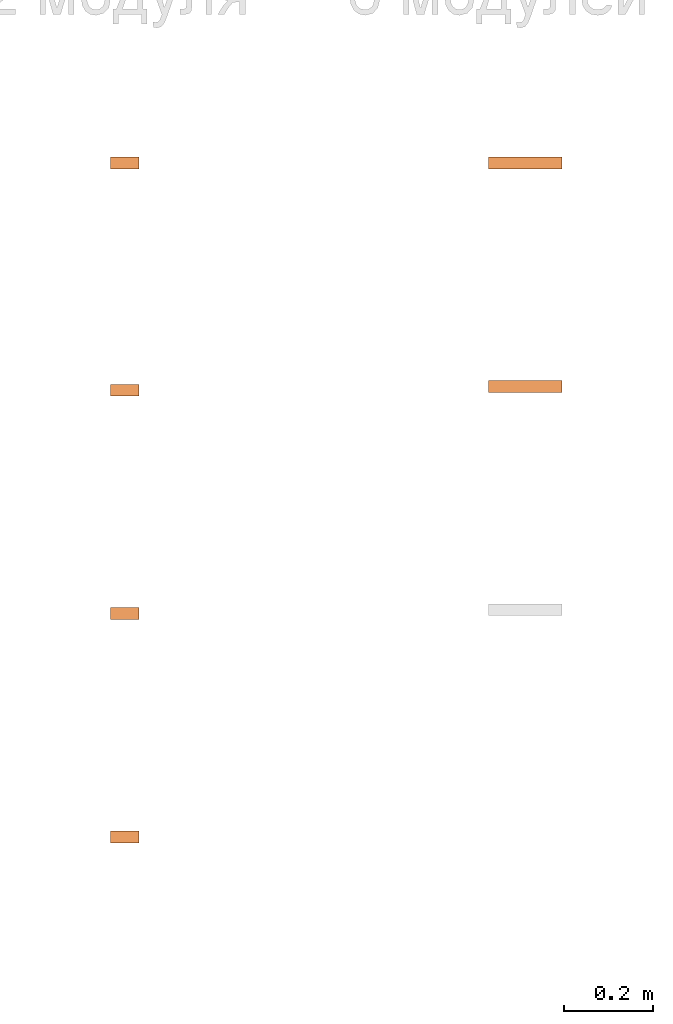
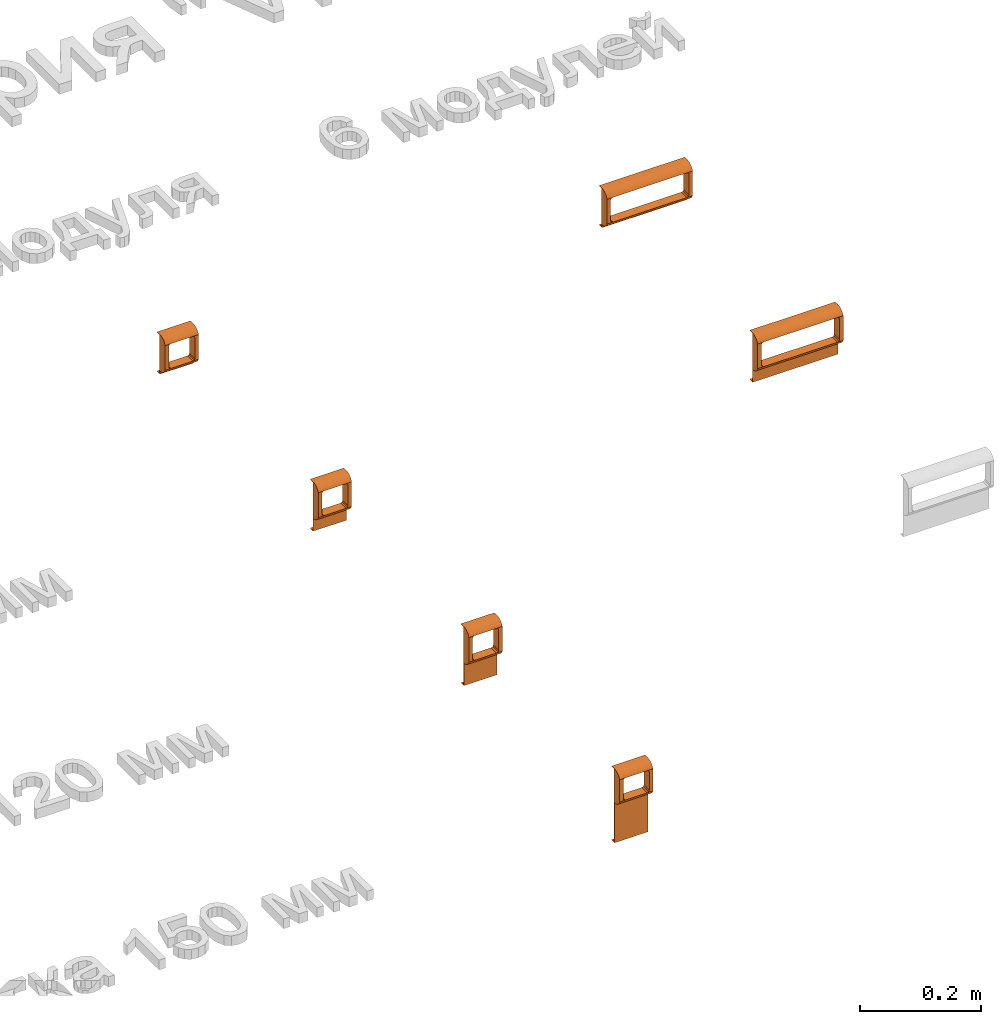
# One storey, part 68 of 71: 6 proxies.
"""IFC2X3 building model written with IfcOpenShell, lengths in millimetres."""

from ifc_helpers import new_model, entity, si_unit, converted_unit, derived_unit, direction, frame, origin, place, context, subcontext, project, spatial, faceted_brep, source, transform, mapped, material, type_object, type_shapes, element, save


model = new_model("IFC2X3")

# Units and contexts
model_context = context("Model", 3, precision=0.01, world=origin(), true_north=direction((6.12303176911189e-17, 1.0)))
body_context = subcontext(model_context, "Body", "Model", "MODEL_VIEW")
ifc_project = project(units=[si_unit("LENGTHUNIT", "METRE", prefix="MILLI"), si_unit("AREAUNIT", "SQUARE_METRE"), si_unit("VOLUMEUNIT", "CUBIC_METRE"), converted_unit("PLANEANGLEUNIT", "DEGREE", entity("IfcRatioMeasure", 0.0174532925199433), si_unit("PLANEANGLEUNIT", "RADIAN"), dimensions=[0, 0, 0, 0, 0, 0, 0]), si_unit("MASSUNIT", "GRAM", prefix="KILO"), derived_unit("MASSDENSITYUNIT", [(si_unit("MASSUNIT", "GRAM", prefix="KILO"), 1), (si_unit("LENGTHUNIT", "METRE"), -3)]), si_unit("TIMEUNIT", "SECOND"), si_unit("FREQUENCYUNIT", "HERTZ"), si_unit("THERMODYNAMICTEMPERATUREUNIT", "DEGREE_CELSIUS"), derived_unit("THERMALTRANSMITTANCEUNIT", [(si_unit("MASSUNIT", "GRAM", prefix="KILO"), 1), (si_unit("THERMODYNAMICTEMPERATUREUNIT", "KELVIN"), -1), (si_unit("TIMEUNIT", "SECOND"), -3)]), derived_unit("VOLUMETRICFLOWRATEUNIT", [(si_unit("LENGTHUNIT", "METRE"), 3), (si_unit("TIMEUNIT", "SECOND"), -1)]), si_unit("ELECTRICCURRENTUNIT", "AMPERE"), si_unit("ELECTRICVOLTAGEUNIT", "VOLT"), si_unit("POWERUNIT", "WATT"), si_unit("FORCEUNIT", "NEWTON", prefix="KILO"), si_unit("ILLUMINANCEUNIT", "LUX"), si_unit("LUMINOUSFLUXUNIT", "LUMEN"), si_unit("LUMINOUSINTENSITYUNIT", "CANDELA"), derived_unit("USERDEFINED", [(si_unit("MASSUNIT", "GRAM", prefix="KILO"), -1), (si_unit("LENGTHUNIT", "METRE"), -2), (si_unit("TIMEUNIT", "SECOND"), 3), (si_unit("LUMINOUSFLUXUNIT", "LUMEN"), 1)]), derived_unit("LINEARVELOCITYUNIT", [(si_unit("LENGTHUNIT", "METRE"), 1), (si_unit("TIMEUNIT", "SECOND"), -1)]), si_unit("PRESSUREUNIT", "PASCAL"), derived_unit("USERDEFINED", [(si_unit("LENGTHUNIT", "METRE"), -2), (si_unit("MASSUNIT", "GRAM", prefix="KILO"), 1), (si_unit("TIMEUNIT", "SECOND"), -2)])], contexts=[model_context])

# Site, building, storey
site_placement = place(None, origin())
site = spatial("IfcSite", under=ifc_project, at=site_placement, Name="Default", CompositionType="ELEMENT")
building_placement = place(site_placement, origin())
building = spatial("IfcBuilding", under=site, at=building_placement, Name="Наименование здания", CompositionType="ELEMENT")
storey_placement = place(building_placement, origin())
storey = spatial("IfcBuildingStorey", under=building, at=storey_placement, Name="Этаж 01", CompositionType="ELEMENT", Elevation=0.0)

# Proxies
ifc_material = material(Name="DKC_Пластик_Белый")
building_element_proxy_type_1 = type_object("IfcBuildingElementProxyType", Name="Серия \"Viva\"", PredefinedType="NOTDEFINED", material=ifc_material)
shared_shape_1 = source(origin(), body_context, "Body", "Brep", [
    faceted_brep([(-23.8192492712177, -18.0, 36.8192492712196), (-20.9686648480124, -18.0, 38.0), (-32.0, -18.0, 38.0), (-32.0, -18.0, -12.0), (-20.9686648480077, -18.0, -12.0), (-23.8192492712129, -18.0, -10.8192492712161), (-25.0, -18.0, -7.96866484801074), (-25.0, -18.0, 33.9686648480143), (32.0, -18.0, 38.0), (20.96866484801, -18.0, 38.0), (23.8192492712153, -18.0, 36.8192492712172), (25.0, -18.0, 33.9686648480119), (25.0, -18.0, -7.96866484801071), (23.8192492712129, -18.0, -10.819249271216), (20.9686648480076, -18.0, -12.0), (32.0, -18.0, -12.0), (32.0, -1.0, -50.0), (32.0, 8.40000000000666, -50.0), (32.0, 8.40000000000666, -49.0), (32.0, 0.0, -49.0), (32.0, 0.0, 49.0), (32.0, 8.40000000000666, 49.0), (32.0, 8.40000000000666, 50.0), (32.0, -1.0, 50.0), (32.0, -5.39126188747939, 49.4574348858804), (32.0, -9.51840787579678, 47.8623725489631), (32.0, -13.1332075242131, 45.310749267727), (32.0, -16.018245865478, 41.9560344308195), (32.0, -16.0182458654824, -15.9560344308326), (32.0, -13.133207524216, -19.3107492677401), (32.0, -9.51840787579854, -21.8623725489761), (32.0, -5.39126188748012, -23.4574348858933), (32.0, -1.0, -24.0), (-32.0, -1.0, 50.0), (-32.0, 8.40000000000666, 50.0), (-32.0, 8.40000000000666, 49.0), (-32.0, 0.0, 49.0), (-32.0, 0.0, -49.0), (-32.0, 8.40000000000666, -49.0), (-32.0, 8.40000000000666, -50.0), (-32.0, -1.0, -50.0), (-32.0, -1.0, -24.0), (-32.0, -5.39126188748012, -23.4574348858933), (-32.0, -9.51840787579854, -21.8623725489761), (-32.0, -13.133207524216, -19.3107492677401), (-32.0, -16.0182458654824, -15.9560344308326), (-32.0, -16.018245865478, 41.9560344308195), (-32.0, -13.1332075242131, 45.310749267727), (-32.0, -9.51840787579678, 47.8623725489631), (-32.0, -5.39126188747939, 49.4574348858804), (25.0, 0.0, -7.96866484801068), (23.8192492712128, 0.0, -10.819249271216), (20.9686648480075, 0.0, -12.0), (-20.9686648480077, 0.0, -12.0), (-23.819249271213, 0.0, -10.819249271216), (-25.0, 0.0, -7.96866484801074), (-25.0, 0.0, 33.9686648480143), (-23.8192492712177, 0.0, 36.8192492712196), (-20.9686648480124, 0.0, 38.0), (25.0, 0.0, 33.968664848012), (23.8192492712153, 0.0, 36.8192492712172), (20.96866484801, 0.0, 38.0)], [[[0, 1, 2, 3, 4, 5, 6, 7]], [[8, 9, 10, 11, 12, 13, 14, 15]], [[16, 17, 18, 19, 20, 21, 22, 23, 24, 25, 26, 27, 8, 15, 28, 29, 30, 31, 32]], [[33, 34, 35, 36, 37, 38, 39, 40, 41, 42, 43, 44, 45, 3, 2, 46, 47, 48, 49]], [[22, 21, 35, 34]], [[18, 17, 39, 38]], [[23, 22, 34, 33]], [[16, 32, 41, 40]], [[17, 16, 40, 39]], [[19, 18, 38, 37]], [[19, 50, 20]], [[50, 19, 51]], [[52, 51, 19]], [[19, 53, 52]], [[53, 19, 37]], [[54, 53, 37]], [[37, 55, 54]], [[55, 37, 36]], [[36, 56, 55]], [[56, 36, 57]], [[58, 57, 36]], [[58, 36, 20]], [[59, 20, 50]], [[20, 59, 60]], [[60, 61, 20]], [[20, 61, 58]], [[21, 20, 36, 35]], [[24, 49, 48, 25]], [[25, 48, 47, 26]], [[33, 49, 24, 23]], [[46, 2, 1, 9, 8, 27]], [[26, 47, 46, 27]], [[4, 3, 45, 28, 15, 14]], [[28, 45, 44, 29]], [[30, 43, 42, 31]], [[31, 42, 41, 32]], [[29, 44, 43, 30]], [[58, 61, 9, 1]], [[0, 57, 58, 1]], [[7, 56, 57, 0]], [[56, 7, 6, 55]], [[5, 54, 55, 6]], [[4, 53, 54, 5]], [[53, 4, 14, 52]], [[13, 51, 52, 14]], [[12, 50, 51, 13]], [[50, 12, 11, 59]], [[10, 60, 59, 11]], [[9, 61, 60, 10]]]),
])
type_shapes(building_element_proxy_type_1, [shared_shape_1])
proxy_1_placement = place(storey_placement, frame((3712.40142967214, -12431.8358834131, 0.0)))
element("IfcBuildingElementProxy", 1, at=proxy_1_placement, inside=storey, type_object=building_element_proxy_type_1, material=ifc_material, Name="КНС_РамкаСуппорт_ILC_DKC:Серия \"Viva\"", ObjectType="Серия \"Viva\"", context=body_context, shape_type="MappedRepresentation", body=[
    mapped(shared_shape_1, transform((0.0, 0.0, 0.0), scale=1.0)),
])
building_element_proxy_type_2 = type_object("IfcBuildingElementProxyType", Name="Серия \"Viva\"", PredefinedType="NOTDEFINED", material=ifc_material)
shared_shape_2 = source(origin(), body_context, "Body", "Brep", [
    faceted_brep([(-23.8192492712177, -18.0, 46.8192492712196), (-20.9686648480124, -18.0, 48.0), (-32.0, -18.0, 48.0), (-32.0, -18.0, -2.0), (-20.9686648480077, -18.0, -2.0), (-23.8192492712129, -18.0, -0.81924927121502), (-25.0, -18.0, 2.03133515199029), (-25.0, -18.0, 43.9686648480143), (32.0, -18.0, 48.0), (20.96866484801, -18.0, 48.0), (23.8192492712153, -18.0, 46.8192492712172), (25.0, -18.0, 43.9686648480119), (25.0, -18.0, 2.03133515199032), (23.8192492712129, -18.0, -0.819249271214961), (20.9686648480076, -18.0, -2.0), (32.0, -18.0, -2.0), (32.0, -1.0, -60.0), (32.0, 8.40000000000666, -60.0), (32.0, 8.40000000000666, -59.0), (32.0, 0.0, -59.0), (32.0, 0.0, 59.0), (32.0, 8.40000000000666, 59.0), (32.0, 8.40000000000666, 60.0), (32.0, -1.0, 60.0), (32.0, -5.39126188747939, 59.4574348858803), (32.0, -9.51840787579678, 57.862372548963), (32.0, -13.1332075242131, 55.310749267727), (32.0, -16.018245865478, 51.9560344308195), (32.0, -16.0182458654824, -5.95603443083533), (32.0, -13.133207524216, -9.31074926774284), (32.0, -9.51840787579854, -11.8623725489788), (32.0, -5.39126188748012, -13.457434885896), (32.0, -1.0, -14.0), (-32.0, -1.0, 60.0), (-32.0, 8.40000000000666, 60.0), (-32.0, 8.40000000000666, 59.0), (-32.0, 0.0, 59.0), (-32.0, 0.0, -59.0), (-32.0, 8.40000000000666, -59.0), (-32.0, 8.40000000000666, -60.0), (-32.0, -1.0, -60.0), (-32.0, -1.0, -14.0), (-32.0, -5.39126188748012, -13.457434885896), (-32.0, -9.51840787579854, -11.8623725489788), (-32.0, -13.133207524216, -9.31074926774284), (-32.0, -16.0182458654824, -5.95603443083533), (-32.0, -16.018245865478, 51.9560344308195), (-32.0, -13.1332075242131, 55.310749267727), (-32.0, -9.51840787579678, 57.862372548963), (-32.0, -5.39126188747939, 59.4574348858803), (25.0, 0.0, 2.03133515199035), (23.8192492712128, 0.0, -0.819249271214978), (20.9686648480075, 0.0, -2.0), (-20.9686648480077, 0.0, -2.0), (-23.819249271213, 0.0, -0.819249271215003), (-25.0, 0.0, 2.03133515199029), (-25.0, 0.0, 43.9686648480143), (-23.8192492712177, 0.0, 46.8192492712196), (-20.9686648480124, 0.0, 48.0), (25.0, 0.0, 43.9686648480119), (23.8192492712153, 0.0, 46.8192492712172), (20.96866484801, 0.0, 48.0)], [[[0, 1, 2, 3, 4, 5, 6, 7]], [[8, 9, 10, 11, 12, 13, 14, 15]], [[16, 17, 18, 19, 20, 21, 22, 23, 24, 25, 26, 27, 8, 15, 28, 29, 30, 31, 32]], [[33, 34, 35, 36, 37, 38, 39, 40, 41, 42, 43, 44, 45, 3, 2, 46, 47, 48, 49]], [[22, 21, 35, 34]], [[18, 17, 39, 38]], [[23, 22, 34, 33]], [[16, 32, 41, 40]], [[17, 16, 40, 39]], [[19, 18, 38, 37]], [[19, 50, 20]], [[50, 19, 51]], [[52, 51, 19]], [[19, 53, 52]], [[53, 19, 37]], [[54, 53, 37]], [[37, 55, 54]], [[55, 37, 36]], [[36, 56, 55]], [[56, 36, 57]], [[58, 57, 36]], [[58, 36, 20]], [[59, 20, 50]], [[20, 59, 60]], [[60, 61, 20]], [[20, 61, 58]], [[21, 20, 36, 35]], [[24, 49, 48, 25]], [[25, 48, 47, 26]], [[33, 49, 24, 23]], [[46, 2, 1, 9, 8, 27]], [[26, 47, 46, 27]], [[4, 3, 45, 28, 15, 14]], [[28, 45, 44, 29]], [[30, 43, 42, 31]], [[31, 42, 41, 32]], [[29, 44, 43, 30]], [[58, 61, 9, 1]], [[0, 57, 58, 1]], [[7, 56, 57, 0]], [[56, 7, 6, 55]], [[5, 54, 55, 6]], [[4, 53, 54, 5]], [[53, 4, 14, 52]], [[13, 51, 52, 14]], [[12, 50, 51, 13]], [[59, 50, 12, 11]], [[10, 60, 59, 11]], [[9, 61, 60, 10]]]),
])
type_shapes(building_element_proxy_type_2, [shared_shape_2])
proxy_2_placement = place(storey_placement, frame((3712.40142967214, -12931.8358834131, 0.0)))
element("IfcBuildingElementProxy", 2, at=proxy_2_placement, inside=storey, type_object=building_element_proxy_type_2, material=ifc_material, Name="КНС_РамкаСуппорт_ILC_DKC:Серия \"Viva\"", ObjectType="Серия \"Viva\"", context=body_context, shape_type="MappedRepresentation", body=[
    mapped(shared_shape_2, transform((0.0, 0.0, 0.0), scale=1.0)),
])
building_element_proxy_type_3 = type_object("IfcBuildingElementProxyType", Name="Серия \"Viva\"", PredefinedType="NOTDEFINED", material=ifc_material)
shared_shape_3 = source(origin(), body_context, "Body", "Brep", [
    faceted_brep([(-23.8192492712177, -18.0, 61.8192492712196), (-20.9686648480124, -18.0, 63.0), (-32.0, -18.0, 63.0), (-32.0, -18.0, 18.0), (-20.9686648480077, -18.0, 18.0), (-23.8192492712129, -18.0, 19.180750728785), (-25.0, -18.0, 22.0313351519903), (-25.0, -18.0, 58.9686648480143), (32.0, -18.0, 63.0), (20.96866484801, -18.0, 63.0), (23.8192492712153, -18.0, 61.8192492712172), (25.0, -18.0, 58.9686648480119), (25.0, -18.0, 22.0313351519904), (23.8192492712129, -18.0, 19.1807507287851), (20.9686648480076, -18.0, 18.0), (32.0, -18.0, 18.0), (32.0, -1.0, -75.0), (32.0, 8.40000000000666, -75.0), (32.0, 8.40000000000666, -74.0), (32.0, 0.0, -74.0), (32.0, 0.0, 74.0), (32.0, 8.40000000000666, 74.0), (32.0, 8.40000000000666, 75.0), (32.0, -1.0, 75.0), (32.0, -5.39126188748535, 74.4574348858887), (32.0, -9.51840787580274, 72.8623725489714), (32.0, -13.133207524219, 70.3107492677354), (32.0, -16.018245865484, 66.9560344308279), (32.0, -16.0182458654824, 14.0439655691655), (32.0, -13.133207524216, 10.689250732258), (32.0, -9.51840787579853, 8.13762745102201), (32.0, -5.39126188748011, 6.54256511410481), (32.0, -1.0, 6.0), (-32.0, -1.0, 75.0), (-32.0, 8.40000000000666, 75.0), (-32.0, 8.40000000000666, 74.0), (-32.0, 0.0, 74.0), (-32.0, 0.0, -74.0), (-32.0, 8.40000000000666, -74.0), (-32.0, 8.40000000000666, -75.0), (-32.0, -1.0, -75.0), (-32.0, -1.0, 6.0), (-32.0, -5.39126188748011, 6.54256511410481), (-32.0, -9.51840787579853, 8.13762745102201), (-32.0, -13.133207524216, 10.689250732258), (-32.0, -16.0182458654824, 14.0439655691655), (-32.0, -16.018245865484, 66.9560344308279), (-32.0, -13.133207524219, 70.3107492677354), (-32.0, -9.51840787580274, 72.8623725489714), (-32.0, -5.39126188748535, 74.4574348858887), (25.0, 0.0, 22.0313351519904), (23.8192492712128, 0.0, 19.1807507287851), (20.9686648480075, 0.0, 18.0), (-20.9686648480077, 0.0, 18.0), (-23.819249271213, 0.0, 19.180750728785), (-25.0, 0.0, 22.0313351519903), (-25.0, 0.0, 58.9686648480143), (-23.8192492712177, 0.0, 61.8192492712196), (-20.9686648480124, 0.0, 63.0), (25.0, 0.0, 58.968664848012), (23.8192492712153, 0.0, 61.8192492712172), (20.96866484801, 0.0, 63.0)], [[[0, 1, 2, 3, 4, 5, 6, 7]], [[8, 9, 10, 11, 12, 13, 14, 15]], [[16, 17, 18, 19, 20, 21, 22, 23, 24, 25, 26, 27, 8, 15, 28, 29, 30, 31, 32]], [[33, 34, 35, 36, 37, 38, 39, 40, 41, 42, 43, 44, 45, 3, 2, 46, 47, 48, 49]], [[22, 21, 35, 34]], [[18, 17, 39, 38]], [[23, 22, 34, 33]], [[16, 32, 41, 40]], [[17, 16, 40, 39]], [[19, 18, 38, 37]], [[19, 50, 20]], [[50, 19, 51]], [[52, 51, 19]], [[19, 37, 52]], [[53, 52, 37]], [[54, 53, 37]], [[37, 55, 54]], [[55, 37, 36]], [[36, 56, 55]], [[56, 36, 57]], [[58, 57, 36]], [[58, 36, 20]], [[59, 20, 50]], [[20, 59, 60]], [[60, 61, 20]], [[20, 61, 58]], [[21, 20, 36, 35]], [[24, 49, 48, 25]], [[25, 48, 47, 26]], [[33, 49, 24, 23]], [[46, 2, 1, 9, 8, 27]], [[26, 47, 46, 27]], [[4, 3, 45, 28, 15, 14]], [[28, 45, 44, 29]], [[30, 43, 42, 31]], [[31, 42, 41, 32]], [[29, 44, 43, 30]], [[58, 61, 9, 1]], [[0, 57, 58, 1]], [[7, 56, 57, 0]], [[56, 7, 6, 55]], [[5, 54, 55, 6]], [[4, 53, 54, 5]], [[53, 4, 14, 52]], [[13, 51, 52, 14]], [[12, 50, 51, 13]], [[50, 12, 11, 59]], [[10, 60, 59, 11]], [[9, 61, 60, 10]]]),
])
type_shapes(building_element_proxy_type_3, [shared_shape_3])
proxy_3_placement = place(storey_placement, frame((3712.40142967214, -13431.8358834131, 0.0)))
element("IfcBuildingElementProxy", 3, at=proxy_3_placement, inside=storey, type_object=building_element_proxy_type_3, material=ifc_material, Name="КНС_РамкаСуппорт_ILC_DKC:Серия \"Viva\"", ObjectType="Серия \"Viva\"", context=body_context, shape_type="MappedRepresentation", body=[
    mapped(shared_shape_3, transform((0.0, 0.0, 0.0), scale=1.0)),
])
building_element_proxy_type_4 = type_object("IfcBuildingElementProxyType", Name="Серия \"Viva\"", PredefinedType="NOTDEFINED", material=ifc_material)
shared_shape_4 = source(origin(), body_context, "Body", "Brep", [
    faceted_brep([(-73.8192492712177, -18.0, 26.8192492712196), (-70.9686648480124, -18.0, 28.0), (-82.0, -18.0, 28.0), (-82.0, -18.0, -22.0), (-70.9686648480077, -18.0, -22.0), (-73.819249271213, -18.0, -20.819249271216), (-75.0, -18.0, -17.9686648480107), (-75.0, -18.0, 23.9686648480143), (82.0, -18.0, 28.0), (70.96866484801, -18.0, 28.0), (73.8192492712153, -18.0, 26.8192492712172), (75.0, -18.0, 23.9686648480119), (75.0, -18.0, -17.9686648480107), (73.8192492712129, -18.0, -20.819249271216), (70.9686648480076, -18.0, -22.0), (82.0, -18.0, -22.0), (82.0, -1.0, -40.0), (82.0, 8.40000000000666, -40.0), (82.0, 8.40000000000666, -39.0), (82.0, 0.0, -39.0), (82.0, 0.0, 39.0), (82.0, 8.40000000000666, 39.0), (82.0, 8.40000000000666, 40.0), (82.0, -1.0, 40.0), (82.0, -5.39126188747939, 39.4574348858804), (82.0, -9.51840787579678, 37.8623725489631), (82.0, -13.1332075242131, 35.3107492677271), (82.0, -16.018245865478, 31.9560344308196), (82.0, -16.0182458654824, -25.9560344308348), (82.0, -13.133207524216, -29.3107492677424), (82.0, -9.51840787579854, -31.8623725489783), (82.0, -5.39126188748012, -33.4574348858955), (82.0, -1.0, -34.0), (-82.0, -1.0, 40.0), (-82.0, 8.40000000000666, 40.0), (-82.0, 8.40000000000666, 39.0), (-82.0, 0.0, 39.0), (-82.0, 0.0, -39.0), (-82.0, 8.40000000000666, -39.0), (-82.0, 8.40000000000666, -40.0), (-82.0, -1.0, -40.0), (-82.0, -1.0, -34.0), (-82.0, -5.39126188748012, -33.4574348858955), (-82.0, -9.51840787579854, -31.8623725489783), (-82.0, -13.133207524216, -29.3107492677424), (-82.0, -16.0182458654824, -25.9560344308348), (-82.0, -16.018245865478, 31.9560344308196), (-82.0, -13.1332075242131, 35.3107492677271), (-82.0, -9.51840787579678, 37.8623725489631), (-82.0, -5.39126188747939, 39.4574348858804), (-7.84403318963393, -1.0, 40.0), (7.84408283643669, -1.0, -34.0), (75.0, 0.0, -17.9686648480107), (73.8192492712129, 0.0, -20.819249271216), (70.9686648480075, 0.0, -22.0), (-70.9686648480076, 0.0, -22.0), (-73.819249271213, 0.0, -20.819249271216), (-75.0, 0.0, -17.9686648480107), (-75.0, 0.0, 23.9686648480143), (-73.8192492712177, 0.0, 26.8192492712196), (-70.9686648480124, 0.0, 28.0), (75.0, 0.0, 23.9686648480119), (73.8192492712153, 0.0, 26.8192492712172), (70.96866484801, 0.0, 28.0), (-1.05664262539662e-07, -7.50391799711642, 38.7869038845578), (10.4878486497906, -16.6040193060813, 31.0146194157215), (0.0, -18.0, 28.0), (-8.03406533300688e-08, -11.4043260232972, 36.697795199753), (6.74916057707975e-08, -14.6789576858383, 33.7221699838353), (-10.7041046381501, -4.32349317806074, 39.6912442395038), (-10.4878486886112, -16.604019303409, -25.0146194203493), (0.0, -18.0, -22.0), (-2.78578905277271e-08, -14.6789576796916, -27.7221699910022), (2.4966060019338e-08, -11.4043260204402, -30.6977952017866), (10.7041051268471, -4.32349317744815, -33.6912442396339), (-2.08968483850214e-08, -7.50391799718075, -32.7869038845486)], [[[0, 1, 2, 3, 4, 5, 6, 7]], [[8, 9, 10, 11, 12, 13, 14, 15]], [[16, 17, 18, 19, 20, 21, 22, 23, 24, 25, 26, 27, 8, 15, 28, 29, 30, 31, 32]], [[33, 34, 35, 36, 37, 38, 39, 40, 41, 42, 43, 44, 45, 3, 2, 46, 47, 48, 49]], [[22, 21, 35, 34]], [[18, 17, 39, 38]], [[22, 34, 33, 50, 23]], [[16, 32, 51, 41, 40]], [[17, 16, 40, 39]], [[19, 18, 38, 37]], [[19, 52, 20]], [[52, 19, 53]], [[54, 53, 19]], [[19, 55, 54]], [[55, 19, 37]], [[56, 55, 37]], [[37, 57, 56]], [[57, 37, 36]], [[36, 58, 57]], [[58, 36, 59]], [[60, 59, 36]], [[60, 36, 20]], [[61, 20, 52]], [[20, 61, 62]], [[62, 63, 20]], [[20, 63, 60]], [[21, 20, 36, 35]], [[64, 49, 48]], [[9, 65, 1, 66]], [[67, 48, 47]], [[67, 47, 68]], [[69, 49, 64]], [[23, 69, 24]], [[68, 26, 67]], [[25, 24, 64]], [[64, 67, 25]], [[26, 25, 67]], [[46, 2, 1]], [[9, 8, 27]], [[33, 69, 23, 50]], [[64, 48, 67]], [[27, 65, 9]], [[26, 68, 27]], [[68, 65, 27]], [[65, 46, 1]], [[24, 69, 64]], [[68, 47, 46]], [[46, 65, 68]], [[33, 49, 69]], [[4, 3, 45]], [[28, 15, 14]], [[4, 70, 14, 71]], [[72, 45, 44]], [[72, 44, 73]], [[70, 45, 72]], [[74, 42, 41]], [[45, 70, 4]], [[29, 28, 72]], [[75, 43, 42]], [[32, 74, 41, 51]], [[42, 74, 75]], [[74, 32, 31]], [[29, 73, 30]], [[75, 73, 43]], [[75, 31, 30]], [[74, 31, 75]], [[73, 29, 72]], [[70, 28, 14]], [[73, 44, 43]], [[28, 70, 72]], [[73, 75, 30]], [[60, 63, 9, 66, 1]], [[0, 59, 60, 1]], [[7, 58, 59, 0]], [[58, 7, 6, 57]], [[5, 56, 57, 6]], [[4, 55, 56, 5]], [[55, 4, 71, 14, 54]], [[13, 53, 54, 14]], [[12, 52, 53, 13]], [[61, 52, 12, 11]], [[10, 62, 61, 11]], [[9, 63, 62, 10]]]),
])
type_shapes(building_element_proxy_type_4, [shared_shape_4])
proxy_4_placement = place(storey_placement, frame((4609.30353125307, -11923.4358834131, 0.0)))
element("IfcBuildingElementProxy", 4, at=proxy_4_placement, inside=storey, type_object=building_element_proxy_type_4, material=ifc_material, Name="КНС_РамкаСуппорт_ILC_DKC:Серия \"Viva\"", ObjectType="Серия \"Viva\"", context=body_context, shape_type="MappedRepresentation", body=[
    mapped(shared_shape_4, transform((0.0, 0.0, 0.0), scale=1.0)),
])
building_element_proxy_type_5 = type_object("IfcBuildingElementProxyType", Name="Серия \"Viva\"", PredefinedType="NOTDEFINED", material=ifc_material)
shared_shape_5 = source(origin(), body_context, "Body", "Brep", [
    faceted_brep([(-73.8192492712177, -18.0, 36.8192492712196), (-70.9686648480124, -18.0, 38.0), (-82.0, -18.0, 38.0), (-82.0, -18.0, -12.0), (-70.9686648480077, -18.0, -12.0), (-73.819249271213, -18.0, -10.819249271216), (-75.0, -18.0, -7.96866484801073), (-75.0, -18.0, 33.9686648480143), (82.0, -18.0, 38.0), (70.96866484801, -18.0, 38.0), (73.8192492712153, -18.0, 36.8192492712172), (75.0, -18.0, 33.9686648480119), (75.0, -18.0, -7.96866484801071), (73.8192492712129, -18.0, -10.819249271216), (70.9686648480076, -18.0, -12.0), (82.0, -18.0, -12.0), (82.0, -1.0, -50.0), (82.0, 8.40000000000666, -50.0), (82.0, 8.40000000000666, -49.0), (82.0, 0.0, -49.0), (82.0, 0.0, 49.0), (82.0, 8.40000000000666, 49.0), (82.0, 8.40000000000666, 50.0), (82.0, -1.0, 50.0), (82.0, -5.39126188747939, 49.4574348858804), (82.0, -9.51840787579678, 47.8623725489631), (82.0, -13.1332075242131, 45.310749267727), (82.0, -16.018245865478, 41.9560344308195), (82.0, -16.0182458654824, -15.9560344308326), (82.0, -13.133207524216, -19.3107492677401), (82.0, -9.51840787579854, -21.8623725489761), (82.0, -5.39126188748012, -23.4574348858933), (82.0, -1.0, -24.0), (-82.0, -1.0, 50.0), (-82.0, 8.40000000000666, 50.0), (-82.0, 8.40000000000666, 49.0), (-82.0, 0.0, 49.0), (-82.0, 0.0, -49.0), (-82.0, 8.40000000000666, -49.0), (-82.0, 8.40000000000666, -50.0), (-82.0, -1.0, -50.0), (-82.0, -1.0, -24.0), (-82.0, -5.39126188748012, -23.4574348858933), (-82.0, -9.51840787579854, -21.8623725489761), (-82.0, -13.133207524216, -19.3107492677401), (-82.0, -16.0182458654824, -15.9560344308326), (-82.0, -16.018245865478, 41.9560344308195), (-82.0, -13.1332075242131, 45.310749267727), (-82.0, -9.51840787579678, 47.8623725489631), (-82.0, -5.39126188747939, 49.4574348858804), (-7.84403318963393, -1.0, 50.0), (7.84408283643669, -1.0, -24.0), (75.0, 0.0, -7.96866484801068), (73.8192492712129, 0.0, -10.819249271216), (70.9686648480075, 0.0, -12.0), (-70.9686648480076, 0.0, -12.0), (-73.819249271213, 0.0, -10.819249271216), (-75.0, 0.0, -7.96866484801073), (-75.0, 0.0, 33.9686648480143), (-73.8192492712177, 0.0, 36.8192492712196), (-70.9686648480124, 0.0, 38.0), (75.0, 0.0, 33.968664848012), (73.8192492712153, 0.0, 36.8192492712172), (70.96866484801, 0.0, 38.0), (-1.05664262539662e-07, -7.50391799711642, 48.7869038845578), (10.4878486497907, -16.6040193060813, 41.0146194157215), (0.0, -18.0, 38.0), (-8.03406533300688e-08, -11.4043260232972, 46.6977951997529), (6.74915888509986e-08, -14.6789576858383, 43.7221699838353), (-10.7041046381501, -4.32349317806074, 49.6912442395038), (-10.487848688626, -16.6040193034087, -15.0146194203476), (0.0, -18.0, -12.0), (-2.7857907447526e-08, -14.6789576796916, -17.7221699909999), (2.49660769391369e-08, -11.4043260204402, -20.6977952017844), (10.7041051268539, -4.32349317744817, -23.6912442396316), (-2.08968483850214e-08, -7.50391799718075, -22.7869038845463)], [[[0, 1, 2, 3, 4, 5, 6, 7]], [[8, 9, 10, 11, 12, 13, 14, 15]], [[16, 17, 18, 19, 20, 21, 22, 23, 24, 25, 26, 27, 8, 15, 28, 29, 30, 31, 32]], [[33, 34, 35, 36, 37, 38, 39, 40, 41, 42, 43, 44, 45, 3, 2, 46, 47, 48, 49]], [[22, 21, 35, 34]], [[18, 17, 39, 38]], [[22, 34, 33, 50, 23]], [[16, 32, 51, 41, 40]], [[17, 16, 40, 39]], [[19, 18, 38, 37]], [[19, 52, 20]], [[52, 19, 53]], [[54, 53, 19]], [[19, 37, 54]], [[55, 54, 37]], [[56, 55, 37]], [[37, 57, 56]], [[57, 37, 36]], [[36, 58, 57]], [[58, 36, 59]], [[60, 59, 36]], [[60, 36, 20]], [[61, 20, 52]], [[20, 61, 62]], [[62, 63, 20]], [[20, 63, 60]], [[21, 20, 36, 35]], [[64, 49, 48]], [[9, 65, 1, 66]], [[67, 48, 47]], [[67, 47, 68]], [[69, 49, 64]], [[23, 69, 24]], [[68, 26, 67]], [[25, 24, 64]], [[64, 67, 25]], [[26, 25, 67]], [[46, 2, 1]], [[9, 8, 27]], [[33, 69, 23, 50]], [[64, 48, 67]], [[27, 65, 9]], [[26, 68, 27]], [[68, 65, 27]], [[65, 46, 1]], [[24, 69, 64]], [[68, 47, 46]], [[46, 65, 68]], [[33, 49, 69]], [[4, 3, 45]], [[28, 15, 14]], [[4, 70, 14, 71]], [[72, 45, 44]], [[72, 44, 73]], [[70, 45, 72]], [[74, 42, 41]], [[45, 70, 4]], [[29, 28, 72]], [[75, 43, 42]], [[32, 74, 41, 51]], [[42, 74, 75]], [[74, 32, 31]], [[29, 73, 30]], [[75, 73, 43]], [[75, 31, 30]], [[74, 31, 75]], [[73, 29, 72]], [[70, 28, 14]], [[73, 44, 43]], [[28, 70, 72]], [[73, 75, 30]], [[60, 63, 9, 66, 1]], [[0, 59, 60, 1]], [[7, 58, 59, 0]], [[58, 7, 6, 57]], [[5, 56, 57, 6]], [[4, 55, 56, 5]], [[55, 4, 71, 14, 54]], [[13, 53, 54, 14]], [[12, 52, 53, 13]], [[52, 12, 11, 61]], [[10, 62, 61, 11]], [[9, 63, 62, 10]]]),
])
type_shapes(building_element_proxy_type_5, [shared_shape_5])
proxy_5_placement = place(storey_placement, frame((4609.30353125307, -12423.4358834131, 0.0)))
element("IfcBuildingElementProxy", 5, at=proxy_5_placement, inside=storey, type_object=building_element_proxy_type_5, material=ifc_material, Name="КНС_РамкаСуппорт_ILC_DKC:Серия \"Viva\"", ObjectType="Серия \"Viva\"", context=body_context, shape_type="MappedRepresentation", body=[
    mapped(shared_shape_5, transform((0.0, 0.0, 0.0), scale=1.0)),
])
building_element_proxy_type_6 = type_object("IfcBuildingElementProxyType", Name="Серия \"Viva\"", PredefinedType="NOTDEFINED", material=ifc_material)
shared_shape_6 = source(origin(), body_context, "Body", "Brep", [
    faceted_brep([(-23.8192492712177, -18.0, 26.8192492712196), (-20.9686648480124, -18.0, 28.0), (-32.0, -18.0, 28.0), (-32.0, -18.0, -22.0), (-20.9686648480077, -18.0, -22.0), (-23.8192492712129, -18.0, -20.819249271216), (-25.0, -18.0, -17.9686648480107), (-25.0, -18.0, 23.9686648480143), (32.0, -18.0, 28.0), (20.96866484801, -18.0, 28.0), (23.8192492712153, -18.0, 26.8192492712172), (25.0, -18.0, 23.9686648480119), (25.0, -18.0, -17.9686648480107), (23.8192492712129, -18.0, -20.819249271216), (20.9686648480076, -18.0, -22.0), (32.0, -18.0, -22.0), (32.0, -1.0, -40.0), (32.0, 8.40000000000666, -40.0), (32.0, 8.40000000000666, -39.0), (32.0, 0.0, -39.0), (32.0, 0.0, 39.0), (32.0, 8.40000000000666, 39.0), (32.0, 8.40000000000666, 40.0), (32.0, -1.0, 40.0), (32.0, -5.39126188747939, 39.4574348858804), (32.0, -9.51840787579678, 37.8623725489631), (32.0, -13.1332075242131, 35.3107492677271), (32.0, -16.018245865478, 31.9560344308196), (32.0, -16.0182458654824, -25.9560344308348), (32.0, -13.133207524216, -29.3107492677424), (32.0, -9.51840787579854, -31.8623725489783), (32.0, -5.39126188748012, -33.4574348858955), (32.0, -1.0, -34.0), (-32.0, -1.0, 40.0), (-32.0, 8.40000000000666, 40.0), (-32.0, 8.40000000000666, 39.0), (-32.0, 0.0, 39.0), (-32.0, 0.0, -39.0), (-32.0, 8.40000000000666, -39.0), (-32.0, 8.40000000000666, -40.0), (-32.0, -1.0, -40.0), (-32.0, -1.0, -34.0), (-32.0, -5.39126188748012, -33.4574348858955), (-32.0, -9.51840787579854, -31.8623725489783), (-32.0, -13.133207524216, -29.3107492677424), (-32.0, -16.0182458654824, -25.9560344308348), (-32.0, -16.018245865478, 31.9560344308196), (-32.0, -13.1332075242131, 35.3107492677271), (-32.0, -9.51840787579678, 37.8623725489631), (-32.0, -5.39126188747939, 39.4574348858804), (25.0, 0.0, -17.9686648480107), (23.8192492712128, 0.0, -20.819249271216), (20.9686648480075, 0.0, -22.0), (-20.9686648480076, 0.0, -22.0), (-23.819249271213, 0.0, -20.819249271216), (-25.0, 0.0, -17.9686648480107), (-25.0, 0.0, 23.9686648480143), (-23.8192492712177, 0.0, 26.8192492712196), (-20.9686648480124, 0.0, 28.0), (25.0, 0.0, 23.9686648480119), (23.8192492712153, 0.0, 26.8192492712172), (20.96866484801, 0.0, 28.0)], [[[0, 1, 2, 3, 4, 5, 6, 7]], [[8, 9, 10, 11, 12, 13, 14, 15]], [[16, 17, 18, 19, 20, 21, 22, 23, 24, 25, 26, 27, 8, 15, 28, 29, 30, 31, 32]], [[33, 34, 35, 36, 37, 38, 39, 40, 41, 42, 43, 44, 45, 3, 2, 46, 47, 48, 49]], [[22, 21, 35, 34]], [[18, 17, 39, 38]], [[23, 22, 34, 33]], [[16, 32, 41, 40]], [[17, 16, 40, 39]], [[19, 18, 38, 37]], [[19, 50, 20]], [[50, 19, 51]], [[52, 51, 19]], [[19, 53, 52]], [[53, 19, 37]], [[54, 53, 37]], [[37, 55, 54]], [[55, 37, 36]], [[36, 56, 55]], [[56, 36, 57]], [[58, 57, 36]], [[58, 36, 20]], [[59, 20, 50]], [[20, 59, 60]], [[60, 61, 20]], [[20, 61, 58]], [[21, 20, 36, 35]], [[24, 49, 48, 25]], [[25, 48, 47, 26]], [[33, 49, 24, 23]], [[46, 2, 1, 9, 8, 27]], [[26, 47, 46, 27]], [[4, 3, 45, 28, 15, 14]], [[28, 45, 44, 29]], [[30, 43, 42, 31]], [[31, 42, 41, 32]], [[29, 44, 43, 30]], [[58, 61, 9, 1]], [[0, 57, 58, 1]], [[7, 56, 57, 0]], [[55, 56, 7, 6]], [[5, 54, 55, 6]], [[4, 53, 54, 5]], [[53, 4, 14, 52]], [[13, 51, 52, 14]], [[12, 50, 51, 13]], [[59, 50, 12, 11]], [[10, 60, 59, 11]], [[9, 61, 60, 10]]]),
])
type_shapes(building_element_proxy_type_6, [shared_shape_6])
proxy_6_placement = place(storey_placement, frame((3712.40142967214, -11923.4358834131, 0.0)))
element("IfcBuildingElementProxy", 6, at=proxy_6_placement, inside=storey, type_object=building_element_proxy_type_6, material=ifc_material, Name="КНС_РамкаСуппорт_ILC_DKC:Серия \"Viva\"", ObjectType="Серия \"Viva\"", context=body_context, shape_type="MappedRepresentation", body=[
    mapped(shared_shape_6, transform((0.0, 0.0, 0.0), scale=1.0)),
])

save(model, "model.ifc")
